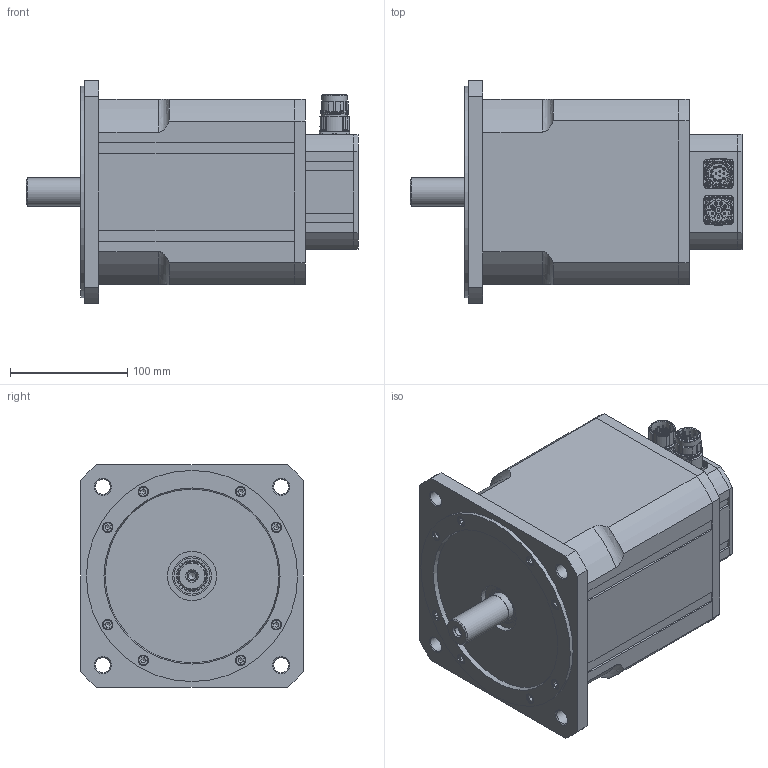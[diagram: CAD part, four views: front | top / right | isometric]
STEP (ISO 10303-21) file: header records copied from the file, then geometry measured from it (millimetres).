
FILE_DESCRIPTION(/* description */ (''),/* implementation_level */ '2;1');
FILE_NAME(/* name */ 'V:\6\N6025 00\3D Z\N6025 00 Z_3800_8P_12P.stp',/* time_stamp */ '2017-06-28T11:38:13+02:00',/* author */ ('simik'),/* organization */ (''),/* preprocessor_version */ 'ST-DEVELOPER v16.13',/* originating_system */ 'Autodesk Inventor 2018',/* authorisation */ '');
FILE_SCHEMA (('AUTOMOTIVE_DESIGN { 1 0 10303 214 3 1 1 }'));
Products named in the file (5): N6025 00 Z; N6025 00 Z_front; N6025 00 Z_3800; 127331; 127344
Assembly tree (4 placements, depth 2):
  N6025 00 Z
    N6025 00 Z_front
    N6025 00 Z_3800
    127331
    127344
Bounding box: 283 x 190 x 190 mm (x, y, z)
Volume: 1905840.8 mm3; surface area: 399917.1 mm2
Topology: 4 solids, 43 shells, 2105 faces, 5033 edges, 3107 vertices
Faces by surface type: cylinder 851, plane 670, torus 188, cone 185, bspline 164, sphere 47
Full cylindrical faces by diameter (mm): 1 x16, 1.18 x12, 1.3 x4, 2 x4, 2.013 x8, 2.15 x4, 2.208 x8, 2.4 x8, 2.459 x10, 2.5 x8, 2.7 x8, 3 x4, 3.242 x8, 3.3 x4, 3.545 x4, 3.95 x4, 4 x4, 4.134 x16, 4.4 x4, 5 x24, 5.3 x16, 5.8 x1, 6.5 x4, 6.647 x1, 6.8 x1, 8 x4, 8.4 x1, 8.5 x20, 9 x16, 13 x4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
Entity records: 67609 total; most frequent: CARTESIAN_POINT 19941, DIRECTION 9839, ORIENTED_EDGE 8778, EDGE_CURVE 4301, AXIS2_PLACEMENT_3D 4213, VERTEX_POINT 2865, EDGE_LOOP 2774, CIRCLE 2106
